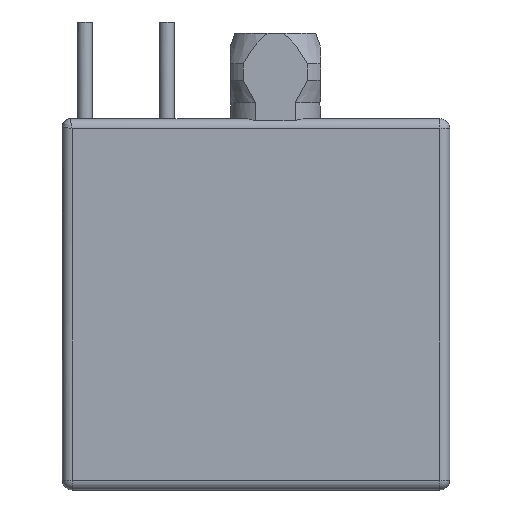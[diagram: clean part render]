
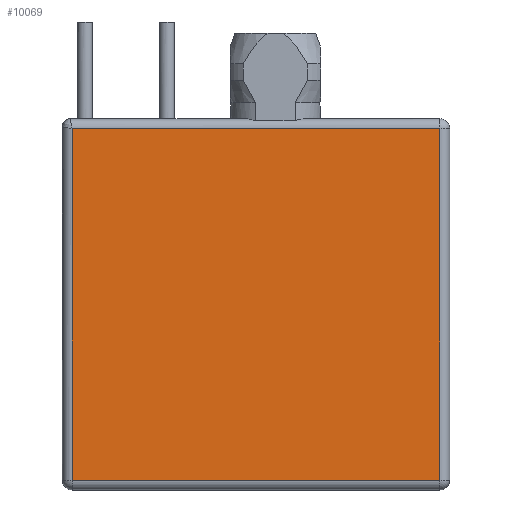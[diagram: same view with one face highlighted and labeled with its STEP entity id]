
A CAD part, front view. The second image highlights one B-rep face of the part: STEP entity #10069.
In plain terms, the highlighted planar face has unit normal (0, -1, 0).
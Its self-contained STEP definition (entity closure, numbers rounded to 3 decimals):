
#2744=DIRECTION('',(-1.,0.,0.));
#2745=VECTOR('',#2744,11.4);
#2746=CARTESIAN_POINT('',(-0.3,-6.55,-0.3));
#2747=LINE('',#2746,#2745);
#3555=DIRECTION('',(0.,0.,1.));
#3556=VECTOR('',#3555,10.9);
#3557=CARTESIAN_POINT('',(-11.7,-6.55,-11.2));
#3558=LINE('',#3557,#3556);
#3559=DIRECTION('',(0.,0.,-1.));
#3560=VECTOR('',#3559,10.9);
#3561=CARTESIAN_POINT('',(-0.3,-6.55,-0.3));
#3562=LINE('',#3561,#3560);
#3563=DIRECTION('',(-1.,0.,0.));
#3564=VECTOR('',#3563,11.4);
#3565=CARTESIAN_POINT('',(-0.3,-6.55,-11.2));
#3566=LINE('',#3565,#3564);
#5588=CARTESIAN_POINT('',(-0.3,-6.55,-11.2));
#5589=CARTESIAN_POINT('',(-11.7,-6.55,-11.2));
#5590=VERTEX_POINT('',#5588);
#5591=VERTEX_POINT('',#5589);
#5596=CARTESIAN_POINT('',(-0.3,-6.55,-0.3));
#5597=VERTEX_POINT('',#5596);
#5634=CARTESIAN_POINT('',(-11.7,-6.55,
-0.3));
#5635=VERTEX_POINT('',#5634);
#10056=CARTESIAN_POINT('',(0.,-6.55,0.));
#10057=DIRECTION('',(0.,-1.,0.));
#10058=DIRECTION('',(0.,0.,-1.));
#10059=AXIS2_PLACEMENT_3D('',#10056,#10057,#10058);
#10060=PLANE('',#10059);
#10062=ORIENTED_EDGE('',*,*,#10061,.T.);
#10063=ORIENTED_EDGE('',*,*,#9202,.F.);
#10064=ORIENTED_EDGE('',*,*,#10047,.T.);
#10066=ORIENTED_EDGE('',*,*,#10065,.T.);
#10067=EDGE_LOOP('',(#10062,#10063,#10064,#10066));
#10068=FACE_OUTER_BOUND('',#10067,.F.);
#10069=ADVANCED_FACE('',(#10068),#10060,.T.);
#9202=EDGE_CURVE('',#5597,#5635,#2747,.T.);
#10047=EDGE_CURVE('',#5597,#5590,#3562,.T.);
#10061=EDGE_CURVE('',#5591,#5635,#3558,.T.);
#10065=EDGE_CURVE('',#5590,#5591,#3566,.T.);
